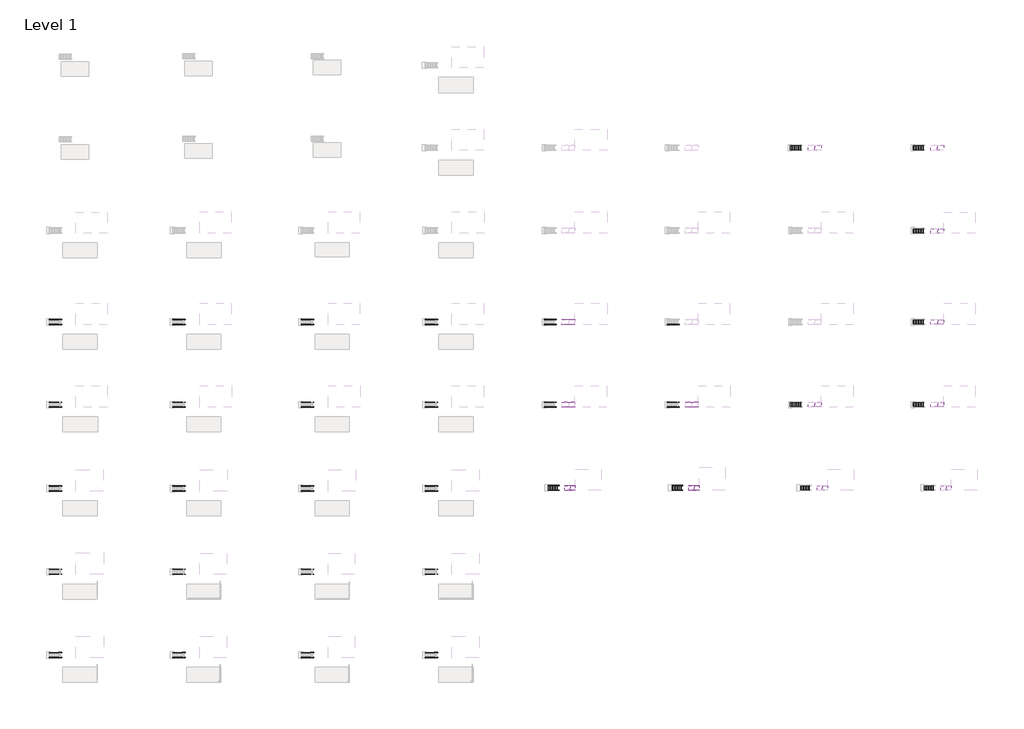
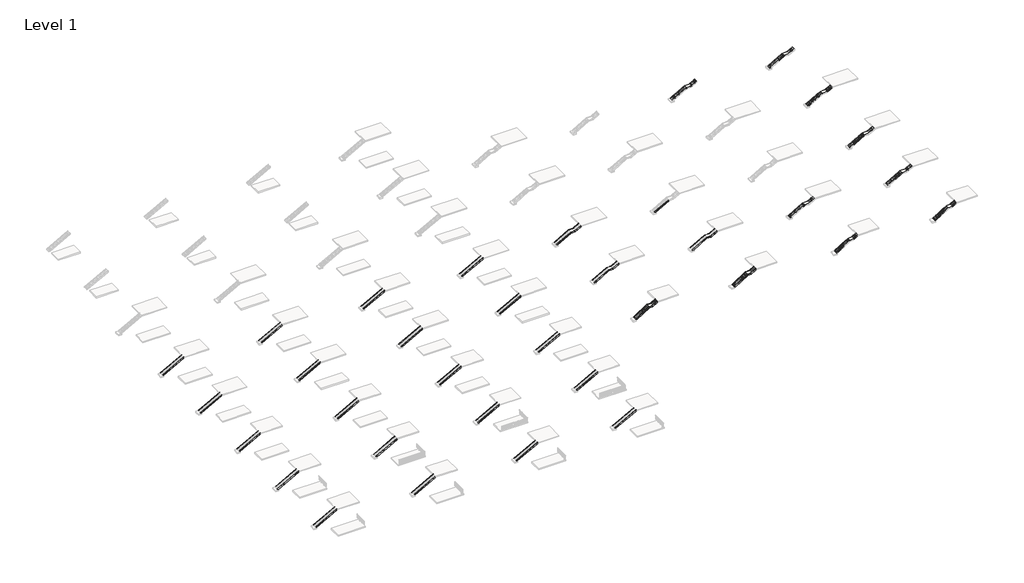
# One storey, part 19 of 21: 71 members, 20 stair flights, 10 slabs.
"""IFC4 building model written with IfcOpenShell, lengths in millimetres."""

from ifc_helpers import new_model, si_unit, frame, origin, place, context, project, spatial, polyline, outline, extrude, transform, mapped, element, save
from components import non_monolithic_landing_ede59ca6, non_monolithic_landing_506cc850, non_monolithic_landing_5e89c606, non_monolithic_landing_ddbb4e18, non_monolithic_landing_e4bc7665, non_monolithic_landing_72e1c1c6, non_monolithic_landing_d6115c21, non_monolithic_landing_ffcbee33, non_monolithic_landing_4331faeb, non_monolithic_landing_26f0ee61, stair_flight_ac206a03, stair_flight_104fc26a, stair_flight_10a90011, stair_flight_adbb388f, stair_flight_39228297, stair_flight_6df5a2fd, stair_flight_5e2af056, stair_flight_82e8a3de, stair_flight_0315c361, stair_flight_44e7a53b, stair_flight_f2fce335, stair_flight_d8697efd, stair_flight_7d4b4248, stair_flight_ee7fe192, stair_flight_6ce74025, stair_flight_1b28ec5c, stair_flight_25ebc553, stair_flight_7da9959f, stair_flight_bc33b561, stair_flight_5b1c3e2d

model = new_model("IFC4")

# Units and contexts
model_context = context("Model", 3, world=origin())
ifc_project = project(units=[si_unit("LENGTHUNIT", "METRE", prefix="MILLI")], contexts=[model_context])

# Site, building, storey
site = spatial("IfcSite", under=ifc_project)
building = spatial("IfcBuilding", under=site)
storey = spatial("IfcBuildingStorey", under=building, Name="Level 1", Elevation=0.0)

# Members
placement = place(None, origin())
element("IfcMember", 1, ObjectType="Stringer - 2\" Width", at=placement, inside=storey, context=model_context, shape_type="SweptSolid", body=[
    extrude(outline(polyline([(177.1989729, -14498.1164794), (0.0, -14498.1164794), (0.0, -14212.9808448), (2753.9260175, -9164.1164794), (3086.6535184, -9164.1164794), (177.1989729, -14498.1164794)])), frame((0.0, -67879.4034511, 0.0), z_axis=(0.0, 1.0, 0.0), x_axis=(0.0, 0.0, 1.0)), (0.0, 0.0, 1.0), 50.8),
])
element("IfcMember", 2, ObjectType="Stringer - 2\" Width", at=placement, inside=storey, context=model_context, shape_type="SweptSolid", body=[
    extrude(outline(polyline([(177.1989729, -14498.1164794), (0.0, -14498.1164794), (0.0, -14212.9808448), (2753.9260175, -9164.1164794), (3086.6535184, -9164.1164794), (177.1989729, -14498.1164794)])), frame((0.0, -68844.6034511, 0.0), z_axis=(0.0, 1.0, 0.0), x_axis=(0.0, 0.0, 1.0)), (0.0, 0.0, 1.0), 50.8),
])
element("IfcMember", 3, ObjectType="Stringer - 2\" Width", at=placement, inside=storey, context=model_context, shape_type="SweptSolid", body=[
    extrude(outline(polyline([(177.1989729, -14498.1164794), (0.0, -14498.1164794), (0.0, -14212.9808448), (2753.9260175, -9164.1164794), (3086.6535184, -9164.1164794), (177.1989729, -14498.1164794)])), frame((0.0, -51279.2426165, 0.0), z_axis=(0.0, 1.0, 0.0), x_axis=(0.0, 0.0, 1.0)), (0.0, 0.0, 1.0), 50.8),
])
element("IfcMember", 4, ObjectType="Stringer - 2\" Width", at=placement, inside=storey, context=model_context, shape_type="SweptSolid", body=[
    extrude(outline(polyline([(177.1989729, -14498.1164794), (0.0, -14498.1164794), (0.0, -14212.9808448), (2753.9260175, -9164.1164794), (3086.6535184, -9164.1164794), (177.1989729, -14498.1164794)])), frame((0.0, -52244.4426165, 0.0), z_axis=(0.0, 1.0, 0.0), x_axis=(0.0, 0.0, 1.0)), (0.0, 0.0, 1.0), 50.8),
])
element("IfcMember", 5, ObjectType="Stringer - 2\" Width", at=placement, inside=storey, context=model_context, shape_type="SweptSolid", body=[
    extrude(outline(polyline([(177.1989729, -14498.1164794), (0.0, -14498.1164794), (0.0, -14212.9808448), (2753.9260175, -9164.1164794), (3086.6535184, -9164.1164794), (177.1989729, -14498.1164794)])), frame((0.0, -34679.081782, 0.0), z_axis=(0.0, 1.0, 0.0), x_axis=(0.0, 0.0, 1.0)), (0.0, 0.0, 1.0), 50.8),
])
element("IfcMember", 6, ObjectType="Stringer - 2\" Width", at=placement, inside=storey, context=model_context, shape_type="SweptSolid", body=[
    extrude(outline(polyline([(177.1989729, -14498.1164794), (0.0, -14498.1164794), (0.0, -14212.9808448), (2753.9260175, -9164.1164794), (3086.6535184, -9164.1164794), (177.1989729, -14498.1164794)])), frame((0.0, -35644.281782, 0.0), z_axis=(0.0, 1.0, 0.0), x_axis=(0.0, 0.0, 1.0)), (0.0, 0.0, 1.0), 50.8),
])
element("IfcMember", 7, ObjectType="Stringer - 2\" Width", at=placement, inside=storey, context=model_context, shape_type="SweptSolid", body=[
    extrude(outline(polyline([(177.1989729, -14498.1164794), (0.0, -14498.1164794), (0.0, -14212.9808448), (2753.9260175, -9164.1164794), (3086.6535184, -9164.1164794), (177.1989729, -14498.1164794)])), frame((0.0, -17954.2990002, 0.0), z_axis=(0.0, 1.0, 0.0), x_axis=(0.0, 0.0, 1.0)), (0.0, 0.0, 1.0), 50.8),
])
element("IfcMember", 8, ObjectType="Stringer - 2\" Width", at=placement, inside=storey, context=model_context, shape_type="SweptSolid", body=[
    extrude(outline(polyline([(177.1989729, -14498.1164794), (0.0, -14498.1164794), (0.0, -14212.9808448), (2753.9260175, -9164.1164794), (3086.6535184, -9164.1164794), (177.1989729, -14498.1164794)])), frame((0.0, -18919.4990002, 0.0), z_axis=(0.0, 1.0, 0.0), x_axis=(0.0, 0.0, 1.0)), (0.0, 0.0, 1.0), 50.8),
])
element("IfcMember", 9, ObjectType="Stringer - 2\" Width", at=placement, inside=storey, context=model_context, shape_type="SweptSolid", body=[
    extrude(outline(polyline([(177.1989729, -14498.1164794), (0.0, -14498.1164794), (0.0, -14212.9808448), (2753.9260175, -9164.1164794), (3086.6535184, -9164.1164794), (177.1989729, -14498.1164794)])), frame((0.0, -1486.3855758, 0.0), z_axis=(0.0, 1.0, 0.0), x_axis=(0.0, 0.0, 1.0)), (0.0, 0.0, 1.0), 50.8),
])
element("IfcMember", 10, ObjectType="Stringer - 2\" Width", at=placement, inside=storey, context=model_context, shape_type="SweptSolid", body=[
    extrude(outline(polyline([(177.1989729, -14498.1164794), (0.0, -14498.1164794), (0.0, -14212.9808448), (2753.9260175, -9164.1164794), (3086.6535184, -9164.1164794), (177.1989729, -14498.1164794)])), frame((0.0, -2451.5855758, 0.0), z_axis=(0.0, 1.0, 0.0), x_axis=(0.0, 0.0, 1.0)), (0.0, 0.0, 1.0), 50.8),
])
element("IfcMember", 11, ObjectType="Stringer - 2\" Width", at=placement, inside=storey, context=model_context, shape_type="SweptSolid", body=[
    extrude(outline(polyline([(177.1989729, 10178.8572927), (0.0, 10178.8572927), (0.0, 10463.9929272), (2753.9260175, 15512.8572927), (3086.6535184, 15512.8572927), (177.1989729, 10178.8572927)])), frame((0.0, -67879.4034511, 0.0), z_axis=(0.0, 1.0, 0.0), x_axis=(0.0, 0.0, 1.0)), (0.0, 0.0, 1.0), 50.8),
])
element("IfcMember", 12, ObjectType="Stringer - 2\" Width", at=placement, inside=storey, context=model_context, shape_type="SweptSolid", body=[
    extrude(outline(polyline([(177.1989729, 10178.8572927), (0.0, 10178.8572927), (0.0, 10463.9929272), (2753.9260175, 15512.8572927), (3086.6535184, 15512.8572927), (177.1989729, 10178.8572927)])), frame((0.0, -68844.6034511, 0.0), z_axis=(0.0, 1.0, 0.0), x_axis=(0.0, 0.0, 1.0)), (0.0, 0.0, 1.0), 50.8),
])
element("IfcMember", 13, ObjectType="Stringer - 2\" Width", at=placement, inside=storey, context=model_context, shape_type="SweptSolid", body=[
    extrude(outline(polyline([(177.1989729, 10178.8572927), (0.0, 10178.8572927), (0.0, 10463.9929272), (2753.9260175, 15512.8572927), (3086.6535184, 15512.8572927), (177.1989729, 10178.8572927)])), frame((0.0, -51279.2426165, 0.0), z_axis=(0.0, 1.0, 0.0), x_axis=(0.0, 0.0, 1.0)), (0.0, 0.0, 1.0), 50.8),
])
element("IfcMember", 14, ObjectType="Stringer - 2\" Width", at=placement, inside=storey, context=model_context, shape_type="SweptSolid", body=[
    extrude(outline(polyline([(177.1989729, 10178.8572927), (0.0, 10178.8572927), (0.0, 10463.9929272), (2753.9260175, 15512.8572927), (3086.6535184, 15512.8572927), (177.1989729, 10178.8572927)])), frame((0.0, -52244.4426165, 0.0), z_axis=(0.0, 1.0, 0.0), x_axis=(0.0, 0.0, 1.0)), (0.0, 0.0, 1.0), 50.8),
])
element("IfcMember", 15, ObjectType="Stringer - 2\" Width", at=placement, inside=storey, context=model_context, shape_type="SweptSolid", body=[
    extrude(outline(polyline([(177.1989729, 10178.8572927), (0.0, 10178.8572927), (0.0, 10463.9929272), (2753.9260175, 15512.8572927), (3086.6535184, 15512.8572927), (177.1989729, 10178.8572927)])), frame((0.0, -34679.081782, 0.0), z_axis=(0.0, 1.0, 0.0), x_axis=(0.0, 0.0, 1.0)), (0.0, 0.0, 1.0), 50.8),
])
element("IfcMember", 16, ObjectType="Stringer - 2\" Width", at=placement, inside=storey, context=model_context, shape_type="SweptSolid", body=[
    extrude(outline(polyline([(177.1989729, 10178.8572927), (0.0, 10178.8572927), (0.0, 10463.9929272), (2753.9260175, 15512.8572927), (3086.6535184, 15512.8572927), (177.1989729, 10178.8572927)])), frame((0.0, -35644.281782, 0.0), z_axis=(0.0, 1.0, 0.0), x_axis=(0.0, 0.0, 1.0)), (0.0, 0.0, 1.0), 50.8),
])
element("IfcMember", 17, ObjectType="Stringer - 2\" Width", at=placement, inside=storey, context=model_context, shape_type="SweptSolid", body=[
    extrude(outline(polyline([(177.1989729, 10178.8572927), (0.0, 10178.8572927), (0.0, 10463.9929272), (2753.9260175, 15512.8572927), (3086.6535184, 15512.8572927), (177.1989729, 10178.8572927)])), frame((0.0, -17954.2990002, 0.0), z_axis=(0.0, 1.0, 0.0), x_axis=(0.0, 0.0, 1.0)), (0.0, 0.0, 1.0), 50.8),
])
element("IfcMember", 18, ObjectType="Stringer - 2\" Width", at=placement, inside=storey, context=model_context, shape_type="SweptSolid", body=[
    extrude(outline(polyline([(177.1989729, 10178.8572927), (0.0, 10178.8572927), (0.0, 10463.9929272), (2753.9260175, 15512.8572927), (3086.6535184, 15512.8572927), (177.1989729, 10178.8572927)])), frame((0.0, -18919.4990002, 0.0), z_axis=(0.0, 1.0, 0.0), x_axis=(0.0, 0.0, 1.0)), (0.0, 0.0, 1.0), 50.8),
])
element("IfcMember", 19, ObjectType="Stringer - 2\" Width", at=placement, inside=storey, context=model_context, shape_type="SweptSolid", body=[
    extrude(outline(polyline([(177.1989729, 10178.8572927), (0.0, 10178.8572927), (0.0, 10463.9929272), (2753.9260175, 15512.8572927), (3086.6535184, 15512.8572927), (177.1989729, 10178.8572927)])), frame((0.0, -1486.3855758, 0.0), z_axis=(0.0, 1.0, 0.0), x_axis=(0.0, 0.0, 1.0)), (0.0, 0.0, 1.0), 50.8),
])
element("IfcMember", 20, ObjectType="Stringer - 2\" Width", at=placement, inside=storey, context=model_context, shape_type="SweptSolid", body=[
    extrude(outline(polyline([(177.1989729, 10178.8572927), (0.0, 10178.8572927), (0.0, 10463.9929272), (2753.9260175, 15512.8572927), (3086.6535184, 15512.8572927), (177.1989729, 10178.8572927)])), frame((0.0, -2451.5855758, 0.0), z_axis=(0.0, 1.0, 0.0), x_axis=(0.0, 0.0, 1.0)), (0.0, 0.0, 1.0), 50.8),
])
element("IfcMember", 21, ObjectType="Stringer - 2\" Width", at=placement, inside=storey, context=model_context, shape_type="SweptSolid", body=[
    extrude(outline(polyline([(177.1989729, 35782.0572927), (0.0, 35782.0572927), (0.0, 36067.1929272), (2753.9260175, 41116.0572927), (3086.6535184, 41116.0572927), (177.1989729, 35782.0572927)])), frame((0.0, -67879.4034511, 0.0), z_axis=(0.0, 1.0, 0.0), x_axis=(0.0, 0.0, 1.0)), (0.0, 0.0, 1.0), 50.8),
])
element("IfcMember", 22, ObjectType="Stringer - 2\" Width", at=placement, inside=storey, context=model_context, shape_type="SweptSolid", body=[
    extrude(outline(polyline([(177.1989729, 35782.0572927), (0.0, 35782.0572927), (0.0, 36067.1929272), (2753.9260175, 41116.0572927), (3086.6535184, 41116.0572927), (177.1989729, 35782.0572927)])), frame((0.0, -68844.6034511, 0.0), z_axis=(0.0, 1.0, 0.0), x_axis=(0.0, 0.0, 1.0)), (0.0, 0.0, 1.0), 50.8),
])
element("IfcMember", 23, ObjectType="Stringer - 2\" Width", at=placement, inside=storey, context=model_context, shape_type="SweptSolid", body=[
    extrude(outline(polyline([(177.1989729, 35782.0572927), (0.0, 35782.0572927), (0.0, 36067.1929272), (2753.9260175, 41116.0572927), (3086.6535184, 41116.0572927), (177.1989729, 35782.0572927)])), frame((0.0, -51279.2426165, 0.0), z_axis=(0.0, 1.0, 0.0), x_axis=(0.0, 0.0, 1.0)), (0.0, 0.0, 1.0), 50.8),
])
element("IfcMember", 24, ObjectType="Stringer - 2\" Width", at=placement, inside=storey, context=model_context, shape_type="SweptSolid", body=[
    extrude(outline(polyline([(177.1989729, 35782.0572927), (0.0, 35782.0572927), (0.0, 36067.1929272), (2753.9260175, 41116.0572927), (3086.6535184, 41116.0572927), (177.1989729, 35782.0572927)])), frame((0.0, -52244.4426165, 0.0), z_axis=(0.0, 1.0, 0.0), x_axis=(0.0, 0.0, 1.0)), (0.0, 0.0, 1.0), 50.8),
])
element("IfcMember", 25, ObjectType="Stringer - 2\" Width", at=placement, inside=storey, context=model_context, shape_type="SweptSolid", body=[
    extrude(outline(polyline([(177.1989729, 35782.0572927), (0.0, 35782.0572927), (0.0, 36067.1929272), (2753.9260175, 41116.0572927), (3086.6535184, 41116.0572927), (177.1989729, 35782.0572927)])), frame((0.0, -34679.081782, 0.0), z_axis=(0.0, 1.0, 0.0), x_axis=(0.0, 0.0, 1.0)), (0.0, 0.0, 1.0), 50.8),
])
element("IfcMember", 26, ObjectType="Stringer - 2\" Width", at=placement, inside=storey, context=model_context, shape_type="SweptSolid", body=[
    extrude(outline(polyline([(177.1989729, 35782.0572927), (0.0, 35782.0572927), (0.0, 36067.1929272), (2753.9260175, 41116.0572927), (3086.6535184, 41116.0572927), (177.1989729, 35782.0572927)])), frame((0.0, -35644.281782, 0.0), z_axis=(0.0, 1.0, 0.0), x_axis=(0.0, 0.0, 1.0)), (0.0, 0.0, 1.0), 50.8),
])
element("IfcMember", 27, ObjectType="Stringer - 2\" Width", at=placement, inside=storey, context=model_context, shape_type="SweptSolid", body=[
    extrude(outline(polyline([(177.1989729, 35782.0572927), (0.0, 35782.0572927), (0.0, 36067.1929272), (2753.9260175, 41116.0572927), (3086.6535184, 41116.0572927), (177.1989729, 35782.0572927)])), frame((0.0, -17954.2990002, 0.0), z_axis=(0.0, 1.0, 0.0), x_axis=(0.0, 0.0, 1.0)), (0.0, 0.0, 1.0), 50.8),
])
element("IfcMember", 28, ObjectType="Stringer - 2\" Width", at=placement, inside=storey, context=model_context, shape_type="SweptSolid", body=[
    extrude(outline(polyline([(177.1989729, 35782.0572927), (0.0, 35782.0572927), (0.0, 36067.1929272), (2753.9260175, 41116.0572927), (3086.6535184, 41116.0572927), (177.1989729, 35782.0572927)])), frame((0.0, -18919.4990002, 0.0), z_axis=(0.0, 1.0, 0.0), x_axis=(0.0, 0.0, 1.0)), (0.0, 0.0, 1.0), 50.8),
])
element("IfcMember", 29, ObjectType="Stringer - 2\" Width", at=placement, inside=storey, context=model_context, shape_type="SweptSolid", body=[
    extrude(outline(polyline([(177.1989729, 35782.0572927), (0.0, 35782.0572927), (0.0, 36067.1929272), (2753.9260175, 41116.0572927), (3086.6535184, 41116.0572927), (177.1989729, 35782.0572927)])), frame((0.0, -1486.3855758, 0.0), z_axis=(0.0, 1.0, 0.0), x_axis=(0.0, 0.0, 1.0)), (0.0, 0.0, 1.0), 50.8),
])
element("IfcMember", 30, ObjectType="Stringer - 2\" Width", at=placement, inside=storey, context=model_context, shape_type="SweptSolid", body=[
    extrude(outline(polyline([(177.1989729, 35782.0572927), (0.0, 35782.0572927), (0.0, 36067.1929272), (2753.9260175, 41116.0572927), (3086.6535184, 41116.0572927), (177.1989729, 35782.0572927)])), frame((0.0, -2451.5855758, 0.0), z_axis=(0.0, 1.0, 0.0), x_axis=(0.0, 0.0, 1.0)), (0.0, 0.0, 1.0), 50.8),
])
element("IfcMember", 31, ObjectType="Stringer - 2\" Width", at=placement, inside=storey, context=model_context, shape_type="SweptSolid", body=[
    extrude(outline(polyline([(177.1989729, 60459.0310647), (0.0, 60459.0310647), (0.0, 60744.1666993), (2753.9260175, 65793.0310647), (3086.6535184, 65793.0310647), (177.1989729, 60459.0310647)])), frame((0.0, -67879.4034511, 0.0), z_axis=(0.0, 1.0, 0.0), x_axis=(0.0, 0.0, 1.0)), (0.0, 0.0, 1.0), 50.8),
])
element("IfcMember", 32, ObjectType="Stringer - 2\" Width", at=placement, inside=storey, context=model_context, shape_type="SweptSolid", body=[
    extrude(outline(polyline([(177.1989729, 60459.0310647), (0.0, 60459.0310647), (0.0, 60744.1666993), (2753.9260175, 65793.0310647), (3086.6535184, 65793.0310647), (177.1989729, 60459.0310647)])), frame((0.0, -68844.6034511, 0.0), z_axis=(0.0, 1.0, 0.0), x_axis=(0.0, 0.0, 1.0)), (0.0, 0.0, 1.0), 50.8),
])
element("IfcMember", 33, ObjectType="Stringer - 2\" Width", at=placement, inside=storey, context=model_context, shape_type="SweptSolid", body=[
    extrude(outline(polyline([(177.1989729, 60459.0310647), (0.0, 60459.0310647), (0.0, 60744.1666993), (2753.9260175, 65793.0310647), (3086.6535184, 65793.0310647), (177.1989729, 60459.0310647)])), frame((0.0, -51279.2426165, 0.0), z_axis=(0.0, 1.0, 0.0), x_axis=(0.0, 0.0, 1.0)), (0.0, 0.0, 1.0), 50.8),
])
element("IfcMember", 34, ObjectType="Stringer - 2\" Width", at=placement, inside=storey, context=model_context, shape_type="SweptSolid", body=[
    extrude(outline(polyline([(177.1989729, 60459.0310647), (0.0, 60459.0310647), (0.0, 60744.1666993), (2753.9260175, 65793.0310647), (3086.6535184, 65793.0310647), (177.1989729, 60459.0310647)])), frame((0.0, -52244.4426165, 0.0), z_axis=(0.0, 1.0, 0.0), x_axis=(0.0, 0.0, 1.0)), (0.0, 0.0, 1.0), 50.8),
])
element("IfcMember", 35, ObjectType="Stringer - 2\" Width", at=placement, inside=storey, context=model_context, shape_type="SweptSolid", body=[
    extrude(outline(polyline([(177.1989729, 60459.0310647), (0.0, 60459.0310647), (0.0, 60744.1666993), (2753.9260175, 65793.0310647), (3086.6535184, 65793.0310647), (177.1989729, 60459.0310647)])), frame((0.0, -34679.081782, 0.0), z_axis=(0.0, 1.0, 0.0), x_axis=(0.0, 0.0, 1.0)), (0.0, 0.0, 1.0), 50.8),
])
element("IfcMember", 36, ObjectType="Stringer - 2\" Width", at=placement, inside=storey, context=model_context, shape_type="SweptSolid", body=[
    extrude(outline(polyline([(177.1989729, 60459.0310647), (0.0, 60459.0310647), (0.0, 60744.1666993), (2753.9260175, 65793.0310647), (3086.6535184, 65793.0310647), (177.1989729, 60459.0310647)])), frame((0.0, -35644.281782, 0.0), z_axis=(0.0, 1.0, 0.0), x_axis=(0.0, 0.0, 1.0)), (0.0, 0.0, 1.0), 50.8),
])
element("IfcMember", 37, ObjectType="Stringer - 2\" Width", at=placement, inside=storey, context=model_context, shape_type="SweptSolid", body=[
    extrude(outline(polyline([(177.1989729, 60459.0310647), (0.0, 60459.0310647), (0.0, 60744.1666993), (2753.9260175, 65793.0310647), (3086.6535184, 65793.0310647), (177.1989729, 60459.0310647)])), frame((0.0, -17954.2990002, 0.0), z_axis=(0.0, 1.0, 0.0), x_axis=(0.0, 0.0, 1.0)), (0.0, 0.0, 1.0), 50.8),
])
element("IfcMember", 38, ObjectType="Stringer - 2\" Width", at=placement, inside=storey, context=model_context, shape_type="SweptSolid", body=[
    extrude(outline(polyline([(177.1989729, 60459.0310647), (0.0, 60459.0310647), (0.0, 60744.1666993), (2753.9260175, 65793.0310647), (3086.6535184, 65793.0310647), (177.1989729, 60459.0310647)])), frame((0.0, -18919.4990002, 0.0), z_axis=(0.0, 1.0, 0.0), x_axis=(0.0, 0.0, 1.0)), (0.0, 0.0, 1.0), 50.8),
])
element("IfcMember", 39, ObjectType="Stringer - 2\" Width", at=placement, inside=storey, context=model_context, shape_type="SweptSolid", body=[
    extrude(outline(polyline([(177.1989729, 60459.0310647), (0.0, 60459.0310647), (0.0, 60744.1666993), (2753.9260175, 65793.0310647), (3086.6535184, 65793.0310647), (177.1989729, 60459.0310647)])), frame((0.0, -1486.3855758, 0.0), z_axis=(0.0, 1.0, 0.0), x_axis=(0.0, 0.0, 1.0)), (0.0, 0.0, 1.0), 50.8),
])
element("IfcMember", 40, ObjectType="Stringer - 2\" Width", at=placement, inside=storey, context=model_context, shape_type="SweptSolid", body=[
    extrude(outline(polyline([(177.1989729, 60459.0310647), (0.0, 60459.0310647), (0.0, 60744.1666993), (2753.9260175, 65793.0310647), (3086.6535184, 65793.0310647), (177.1989729, 60459.0310647)])), frame((0.0, -2451.5855758, 0.0), z_axis=(0.0, 1.0, 0.0), x_axis=(0.0, 0.0, 1.0)), (0.0, 0.0, 1.0), 50.8),
])
element("IfcMember", 41, ObjectType="Stringer - 2\" Width", at=placement, inside=storey, context=model_context, shape_type="SweptSolid", body=[
    extrude(outline(polyline([(179.6072535, 84196.2048368), (0.0, 84196.2048368), (0.0, 84470.6385153), (1916.7928571, 87825.0260153), (2208.8928571, 87747.4546432), (179.6072535, 84196.2048368)])), frame((0.0, -1486.3855758, 0.0), z_axis=(0.0, 1.0, 0.0), x_axis=(0.0, 0.0, 1.0)), (0.0, 0.0, 1.0), 50.8),
])
element("IfcMember", 42, ObjectType="Stringer - 2\" Width", at=placement, inside=storey, context=model_context, shape_type="SweptSolid", body=[
    extrude(outline(polyline([(179.6072535, 84196.2048368), (0.0, 84196.2048368), (0.0, 84470.6385153), (1916.7928571, 87825.0260153), (2208.8928571, 87747.4546432), (179.6072535, 84196.2048368)])), frame((0.0, -2451.5855758, 0.0), z_axis=(0.0, 1.0, 0.0), x_axis=(0.0, 0.0, 1.0)), (0.0, 0.0, 1.0), 50.8),
])
element("IfcMember", 43, ObjectType="Stringer - 2\" Width", at=placement, inside=storey, context=model_context, shape_type="SweptSolid", body=[
    extrude(outline(polyline([(2208.8928571, 88814.2546432), (1916.7928571, 88891.8260153), (2746.037898, 90343.0048368), (3048.0, 90343.0048368), (3048.0, 90282.6921432), (2208.8928571, 88814.2546432)])), frame((0.0, -1486.3855758, 0.0), z_axis=(0.0, 1.0, 0.0), x_axis=(0.0, 0.0, 1.0)), (0.0, 0.0, 1.0), 50.8),
])
element("IfcMember", 44, ObjectType="Stringer - 2\" Width", at=placement, inside=storey, context=model_context, shape_type="SweptSolid", body=[
    extrude(outline(polyline([(2208.8928571, 88814.2546432), (1916.7928571, 88891.8260153), (2746.037898, 90343.0048368), (3048.0, 90343.0048368), (3048.0, 90282.6921432), (2208.8928571, 88814.2546432)])), frame((0.0, -2451.5855758, 0.0), z_axis=(0.0, 1.0, 0.0), x_axis=(0.0, 0.0, 1.0)), (0.0, 0.0, 1.0), 50.8),
])
element("IfcMember", 45, ObjectType="Stringer - 2\" Width", at=placement, inside=storey, context=model_context, shape_type="SweptSolid", body=[
    extrude(outline(polyline([(1916.7928571, 88891.8260153), (2208.8928571, 88814.2546432), (2208.8928571, 87747.4546432), (1916.7928571, 87825.0260153), (1916.7928571, 88891.8260153)])), frame((0.0, -1486.3855758, 0.0), z_axis=(0.0, 1.0, 0.0), x_axis=(0.0, 0.0, 1.0)), (0.0, 0.0, 1.0), 50.8),
])
element("IfcMember", 46, ObjectType="Stringer - 2\" Width", at=placement, inside=storey, context=model_context, shape_type="SweptSolid", body=[
    extrude(outline(polyline([(2208.8928571, 87747.4546432), (1916.7928571, 87825.0260153), (1916.7928571, 88891.8260153), (2208.8928571, 88814.2546432), (2208.8928571, 87747.4546432)])), frame((0.0, -2451.5855758, 0.0), z_axis=(0.0, 1.0, 0.0), x_axis=(0.0, 0.0, 1.0)), (0.0, 0.0, 1.0), 50.8),
])
element("IfcMember", 47, ObjectType="Stringer - 2\" Width", at=placement, inside=storey, context=model_context, shape_type="SweptSolid", body=[
    extrude(outline(polyline([(179.6072535, 84196.2048368), (0.0, 84196.2048368), (0.0, 84470.6385153), (1916.7928571, 87825.0260153), (2208.8928571, 87747.4546432), (179.6072535, 84196.2048368)])), frame((0.0, -17954.2990002, 0.0), z_axis=(0.0, 1.0, 0.0), x_axis=(0.0, 0.0, 1.0)), (0.0, 0.0, 1.0), 50.8),
])
element("IfcMember", 48, ObjectType="Stringer - 2\" Width", at=placement, inside=storey, context=model_context, shape_type="SweptSolid", body=[
    extrude(outline(polyline([(179.6072535, 84196.2048368), (0.0, 84196.2048368), (0.0, 84470.6385153), (1916.7928571, 87825.0260153), (2208.8928571, 87747.4546432), (179.6072535, 84196.2048368)])), frame((0.0, -18919.4990002, 0.0), z_axis=(0.0, 1.0, 0.0), x_axis=(0.0, 0.0, 1.0)), (0.0, 0.0, 1.0), 50.8),
])
element("IfcMember", 49, ObjectType="Stringer - 2\" Width", at=placement, inside=storey, context=model_context, shape_type="SweptSolid", body=[
    extrude(outline(polyline([(2208.8928571, 88814.2546432), (1916.7928571, 88891.8260153), (2746.037898, 90343.0048368), (3048.0, 90343.0048368), (3048.0, 90282.6921432), (2208.8928571, 88814.2546432)])), frame((0.0, -17954.2990002, 0.0), z_axis=(0.0, 1.0, 0.0), x_axis=(0.0, 0.0, 1.0)), (0.0, 0.0, 1.0), 50.8),
])
element("IfcMember", 50, ObjectType="Stringer - 2\" Width", at=placement, inside=storey, context=model_context, shape_type="SweptSolid", body=[
    extrude(outline(polyline([(2208.8928571, 88814.2546432), (1916.7928571, 88891.8260153), (2746.037898, 90343.0048368), (3048.0, 90343.0048368), (3048.0, 90282.6921432), (2208.8928571, 88814.2546432)])), frame((0.0, -18919.4990002, 0.0), z_axis=(0.0, 1.0, 0.0), x_axis=(0.0, 0.0, 1.0)), (0.0, 0.0, 1.0), 50.8),
])
element("IfcMember", 51, ObjectType="Stringer - 2\" Width", at=placement, inside=storey, context=model_context, shape_type="SweptSolid", body=[
    extrude(outline(polyline([(1916.7928571, 88891.8260153), (2208.8928571, 88814.2546432), (2208.8928571, 87747.4546432), (1916.7928571, 87825.0260153), (1916.7928571, 88891.8260153)])), frame((0.0, -17954.2990002, 0.0), z_axis=(0.0, 1.0, 0.0), x_axis=(0.0, 0.0, 1.0)), (0.0, 0.0, 1.0), 50.8),
])
element("IfcMember", 52, ObjectType="Stringer - 2\" Width", at=placement, inside=storey, context=model_context, shape_type="SweptSolid", body=[
    extrude(outline(polyline([(2208.8928571, 87747.4546432), (1916.7928571, 87825.0260153), (1916.7928571, 88891.8260153), (2208.8928571, 88814.2546432), (2208.8928571, 87747.4546432)])), frame((0.0, -18919.4990002, 0.0), z_axis=(0.0, 1.0, 0.0), x_axis=(0.0, 0.0, 1.0)), (0.0, 0.0, 1.0), 50.8),
])
element("IfcMember", 53, ObjectType="Stringer - 2\" Width", at=placement, inside=storey, context=model_context, shape_type="SweptSolid", body=[
    extrude(outline(polyline([(179.6072535, 108746.1786089), (0.0, 108746.1786089), (0.0, 109020.6122873), (1916.7928571, 112374.9997873), (2208.8928571, 112297.4284152), (179.6072535, 108746.1786089)])), frame((0.0, -2451.5855758, 0.0), z_axis=(0.0, 1.0, 0.0), x_axis=(0.0, 0.0, 1.0)), (0.0, 0.0, 1.0), 50.8),
])
element("IfcMember", 54, ObjectType="Stringer - 2\" Width", at=placement, inside=storey, context=model_context, shape_type="SweptSolid", body=[
    extrude(outline(polyline([(179.6072535, 108746.1786089), (0.0, 108746.1786089), (0.0, 109020.6122873), (1916.7928571, 112374.9997873), (2208.8928571, 112297.4284152), (179.6072535, 108746.1786089)])), frame((0.0, -17954.2990002, 0.0), z_axis=(0.0, 1.0, 0.0), x_axis=(0.0, 0.0, 1.0)), (0.0, 0.0, 1.0), 50.8),
])
element("IfcMember", 55, ObjectType="Stringer - 2\" Width", at=placement, inside=storey, context=model_context, shape_type="SweptSolid", body=[
    extrude(outline(polyline([(179.6072535, 108746.1786089), (0.0, 108746.1786089), (0.0, 109020.6122873), (1916.7928571, 112374.9997873), (2208.8928571, 112297.4284152), (179.6072535, 108746.1786089)])), frame((0.0, -18919.4990002, 0.0), z_axis=(0.0, 1.0, 0.0), x_axis=(0.0, 0.0, 1.0)), (0.0, 0.0, 1.0), 50.8),
])
element("IfcMember", 56, ObjectType="Stringer - 2\" Width", at=placement, inside=storey, context=model_context, shape_type="SweptSolid", body=[
    extrude(outline(polyline([(2208.8928571, 113364.2284152), (1916.7928571, 113441.7997873), (2746.037898, 114892.9786089), (3048.0, 114892.9786089), (3048.0, 114832.6659152), (2208.8928571, 113364.2284152)])), frame((0.0, -17954.2990002, 0.0), z_axis=(0.0, 1.0, 0.0), x_axis=(0.0, 0.0, 1.0)), (0.0, 0.0, 1.0), 50.8),
])
element("IfcMember", 57, ObjectType="Stringer - 2\" Width", at=placement, inside=storey, context=model_context, shape_type="SweptSolid", body=[
    extrude(outline(polyline([(2208.8928571, 113364.2284152), (1916.7928571, 113441.7997873), (2746.037898, 114892.9786089), (3048.0, 114892.9786089), (3048.0, 114832.6659152), (2208.8928571, 113364.2284152)])), frame((0.0, -18919.4990002, 0.0), z_axis=(0.0, 1.0, 0.0), x_axis=(0.0, 0.0, 1.0)), (0.0, 0.0, 1.0), 50.8),
])
element("IfcMember", 58, ObjectType="Stringer - 2\" Width", at=placement, inside=storey, context=model_context, shape_type="SweptSolid", body=[
    extrude(outline(polyline([(1916.7928571, 113441.7997873), (2208.8928571, 113364.2284152), (2208.8928571, 112297.4284152), (1916.7928571, 112374.9997873), (1916.7928571, 113441.7997873)])), frame((0.0, -17954.2990002, 0.0), z_axis=(0.0, 1.0, 0.0), x_axis=(0.0, 0.0, 1.0)), (0.0, 0.0, 1.0), 50.8),
])
element("IfcMember", 59, ObjectType="Stringer - 2\" Width", at=placement, inside=storey, context=model_context, shape_type="SweptSolid", body=[
    extrude(outline(polyline([(2208.8928571, 112297.4284152), (1916.7928571, 112374.9997873), (1916.7928571, 113441.7997873), (2208.8928571, 113364.2284152), (2208.8928571, 112297.4284152)])), frame((0.0, -18919.4990002, 0.0), z_axis=(0.0, 1.0, 0.0), x_axis=(0.0, 0.0, 1.0)), (0.0, 0.0, 1.0), 50.8),
])
element("IfcMember", 60, ObjectType="Stringer - 2\" Width", at=placement, inside=storey, context=model_context, shape_type="SweptSolid", body=[
    extrude(outline(polyline([(185.523793, 85028.9207174), (0.0, 85028.9207174), (0.0, 85282.1856365), (1985.5447368, 88425.9648032), (2277.6447368, 88341.4455451), (185.523793, 85028.9207174)])), frame((0.0, -34537.0428514, 0.0), z_axis=(0.0, 1.0, 0.0), x_axis=(0.0, 0.0, 1.0)), (0.0, 0.0, 1.0), 50.8),
])
element("IfcMember", 61, ObjectType="Stringer - 2\" Width", at=placement, inside=storey, context=model_context, shape_type="SweptSolid", body=[
    extrude(outline(polyline([(185.523793, 85028.9207174), (0.0, 85028.9207174), (0.0, 85282.1856365), (1985.5447368, 88425.9648032), (2277.6447368, 88341.4455451), (185.523793, 85028.9207174)])), frame((0.0, -35502.2428514, 0.0), z_axis=(0.0, 1.0, 0.0), x_axis=(0.0, 0.0, 1.0)), (0.0, 0.0, 1.0), 50.8),
])
element("IfcMember", 62, ObjectType="Stringer - 2\" Width", at=placement, inside=storey, context=model_context, shape_type="SweptSolid", body=[
    extrude(outline(polyline([(2277.6447368, 89154.2455451), (1985.5447368, 89238.7648032), (2727.6221564, 90413.7207174), (3048.0, 90413.7207174), (3048.0, 90373.9747118), (2277.6447368, 89154.2455451)])), frame((0.0, -34537.0428514, 0.0), z_axis=(0.0, 1.0, 0.0), x_axis=(0.0, 0.0, 1.0)), (0.0, 0.0, 1.0), 50.8),
])
element("IfcMember", 63, ObjectType="Stringer - 2\" Width", at=placement, inside=storey, context=model_context, shape_type="SweptSolid", body=[
    extrude(outline(polyline([(2277.6447368, 89154.2455451), (1985.5447368, 89238.7648032), (2727.6221564, 90413.7207174), (3048.0, 90413.7207174), (3048.0, 90373.9747118), (2277.6447368, 89154.2455451)])), frame((0.0, -35502.2428514, 0.0), z_axis=(0.0, 1.0, 0.0), x_axis=(0.0, 0.0, 1.0)), (0.0, 0.0, 1.0), 50.8),
])
element("IfcMember", 64, ObjectType="Stringer - 2\" Width", at=placement, inside=storey, context=model_context, shape_type="SweptSolid", body=[
    extrude(outline(polyline([(1985.5447368, 89238.7648032), (2277.6447368, 89154.2455451), (2277.6447368, 88341.4455451), (1985.5447368, 88425.9648032), (1985.5447368, 89238.7648032)])), frame((0.0, -34537.0428514, 0.0), z_axis=(0.0, 1.0, 0.0), x_axis=(0.0, 0.0, 1.0)), (0.0, 0.0, 1.0), 50.8),
])
element("IfcMember", 65, ObjectType="Stringer - 2\" Width", at=placement, inside=storey, context=model_context, shape_type="SweptSolid", body=[
    extrude(outline(polyline([(2277.6447368, 88341.4455451), (1985.5447368, 88425.9648032), (1985.5447368, 89238.7648032), (2277.6447368, 89154.2455451), (2277.6447368, 88341.4455451)])), frame((0.0, -35502.2428514, 0.0), z_axis=(0.0, 1.0, 0.0), x_axis=(0.0, 0.0, 1.0)), (0.0, 0.0, 1.0), 50.8),
])
element("IfcMember", 66, ObjectType="Stringer - 2\" Width", at=placement, inside=storey, context=model_context, shape_type="SweptSolid", body=[
    extrude(outline(polyline([(185.523793, 109705.8944894), (0.0, 109705.8944894), (0.0, 109959.1594085), (1985.5447368, 113102.9385752), (2277.6447368, 113018.4193172), (185.523793, 109705.8944894)])), frame((0.0, -34537.0428514, 0.0), z_axis=(0.0, 1.0, 0.0), x_axis=(0.0, 0.0, 1.0)), (0.0, 0.0, 1.0), 50.8),
])
element("IfcMember", 67, ObjectType="Stringer - 2\" Width", at=placement, inside=storey, context=model_context, shape_type="SweptSolid", body=[
    extrude(outline(polyline([(185.523793, 109705.8944894), (0.0, 109705.8944894), (0.0, 109959.1594085), (1985.5447368, 113102.9385752), (2277.6447368, 113018.4193172), (185.523793, 109705.8944894)])), frame((0.0, -35502.2428514, 0.0), z_axis=(0.0, 1.0, 0.0), x_axis=(0.0, 0.0, 1.0)), (0.0, 0.0, 1.0), 50.8),
])
element("IfcMember", 68, ObjectType="Stringer - 2\" Width", at=placement, inside=storey, context=model_context, shape_type="SweptSolid", body=[
    extrude(outline(polyline([(2277.6447368, 113831.2193172), (1985.5447368, 113915.7385752), (2727.6221564, 115090.6944894), (3048.0, 115090.6944894), (3048.0, 115050.9484839), (2277.6447368, 113831.2193172)])), frame((0.0, -34537.0428514, 0.0), z_axis=(0.0, 1.0, 0.0), x_axis=(0.0, 0.0, 1.0)), (0.0, 0.0, 1.0), 50.8),
])
element("IfcMember", 69, ObjectType="Stringer - 2\" Width", at=placement, inside=storey, context=model_context, shape_type="SweptSolid", body=[
    extrude(outline(polyline([(2277.6447368, 113831.2193172), (1985.5447368, 113915.7385752), (2727.6221564, 115090.6944894), (3048.0, 115090.6944894), (3048.0, 115050.9484839), (2277.6447368, 113831.2193172)])), frame((0.0, -35502.2428514, 0.0), z_axis=(0.0, 1.0, 0.0), x_axis=(0.0, 0.0, 1.0)), (0.0, 0.0, 1.0), 50.8),
])
element("IfcMember", 70, ObjectType="Stringer - 2\" Width", at=placement, inside=storey, context=model_context, shape_type="SweptSolid", body=[
    extrude(outline(polyline([(1985.5447368, 113915.7385752), (2277.6447368, 113831.2193172), (2277.6447368, 113018.4193172), (1985.5447368, 113102.9385752), (1985.5447368, 113915.7385752)])), frame((0.0, -34537.0428514, 0.0), z_axis=(0.0, 1.0, 0.0), x_axis=(0.0, 0.0, 1.0)), (0.0, 0.0, 1.0), 50.8),
])
element("IfcMember", 71, ObjectType="Stringer - 2\" Width", at=placement, inside=storey, context=model_context, shape_type="SweptSolid", body=[
    extrude(outline(polyline([(2277.6447368, 113018.4193172), (1985.5447368, 113102.9385752), (1985.5447368, 113915.7385752), (2277.6447368, 113831.2193172), (2277.6447368, 113018.4193172)])), frame((0.0, -35502.2428514, 0.0), z_axis=(0.0, 1.0, 0.0), x_axis=(0.0, 0.0, 1.0)), (0.0, 0.0, 1.0), 50.8),
])

# Slabs
non_monolithic_landing_shape = non_monolithic_landing_ede59ca6(model_context)
element("IfcSlab", 72, ObjectType="Non-Monolithic Landing", at=placement, inside=storey, context=model_context, shape_type="MappedRepresentation", body=[
    mapped(non_monolithic_landing_shape, transform((0.0, 0.0, 0.0), x_axis=(1.0, 0.0, 0.0), y_axis=(0.0, 1.0, 0.0), z_axis=(0.0, 0.0, 1.0))),
])
non_monolithic_landing_2_shape = non_monolithic_landing_506cc850(model_context)
element("IfcSlab", 73, ObjectType="Non-Monolithic Landing", at=placement, inside=storey, context=model_context, shape_type="MappedRepresentation", body=[
    mapped(non_monolithic_landing_2_shape, transform((0.0, 0.0, 0.0), x_axis=(1.0, 0.0, 0.0), y_axis=(0.0, 1.0, 0.0), z_axis=(0.0, 0.0, 1.0))),
])
non_monolithic_landing_3_shape = non_monolithic_landing_5e89c606(model_context)
element("IfcSlab", 74, ObjectType="Non-Monolithic Landing", at=placement, inside=storey, context=model_context, shape_type="MappedRepresentation", body=[
    mapped(non_monolithic_landing_3_shape, transform((0.0, 0.0, 0.0), x_axis=(1.0, 0.0, 0.0), y_axis=(0.0, 1.0, 0.0), z_axis=(0.0, 0.0, 1.0))),
])
non_monolithic_landing_4_shape = non_monolithic_landing_ddbb4e18(model_context)
element("IfcSlab", 75, ObjectType="Non-Monolithic Landing", at=placement, inside=storey, context=model_context, shape_type="MappedRepresentation", body=[
    mapped(non_monolithic_landing_4_shape, transform((0.0, 0.0, 0.0), x_axis=(1.0, 0.0, 0.0), y_axis=(0.0, 1.0, 0.0), z_axis=(0.0, 0.0, 1.0))),
])
non_monolithic_landing_5_shape = non_monolithic_landing_e4bc7665(model_context)
element("IfcSlab", 76, ObjectType="Non-Monolithic Landing", at=placement, inside=storey, context=model_context, shape_type="MappedRepresentation", body=[
    mapped(non_monolithic_landing_5_shape, transform((0.0, 0.0, 0.0), x_axis=(1.0, 0.0, 0.0), y_axis=(0.0, 1.0, 0.0), z_axis=(0.0, 0.0, 1.0))),
])
non_monolithic_landing_6_shape = non_monolithic_landing_72e1c1c6(model_context)
element("IfcSlab", 77, ObjectType="Non-Monolithic Landing", at=placement, inside=storey, context=model_context, shape_type="MappedRepresentation", body=[
    mapped(non_monolithic_landing_6_shape, transform((0.0, 0.0, 0.0), x_axis=(1.0, 0.0, 0.0), y_axis=(0.0, 1.0, 0.0), z_axis=(0.0, 0.0, 1.0))),
])
non_monolithic_landing_7_shape = non_monolithic_landing_d6115c21(model_context)
element("IfcSlab", 78, ObjectType="Non-Monolithic Landing", at=placement, inside=storey, context=model_context, shape_type="MappedRepresentation", body=[
    mapped(non_monolithic_landing_7_shape, transform((0.0, 0.0, 0.0), x_axis=(1.0, 0.0, 0.0), y_axis=(0.0, 1.0, 0.0), z_axis=(0.0, 0.0, 1.0))),
])
non_monolithic_landing_8_shape = non_monolithic_landing_ffcbee33(model_context)
element("IfcSlab", 79, ObjectType="Non-Monolithic Landing", at=placement, inside=storey, context=model_context, shape_type="MappedRepresentation", body=[
    mapped(non_monolithic_landing_8_shape, transform((0.0, 0.0, 0.0), x_axis=(1.0, 0.0, 0.0), y_axis=(0.0, 1.0, 0.0), z_axis=(0.0, 0.0, 1.0))),
])
non_monolithic_landing_9_shape = non_monolithic_landing_4331faeb(model_context)
element("IfcSlab", 80, ObjectType="Non-Monolithic Landing", at=placement, inside=storey, context=model_context, shape_type="MappedRepresentation", body=[
    mapped(non_monolithic_landing_9_shape, transform((0.0, 0.0, 0.0), x_axis=(1.0, 0.0, 0.0), y_axis=(0.0, 1.0, 0.0), z_axis=(0.0, 0.0, 1.0))),
])
non_monolithic_landing_10_shape = non_monolithic_landing_26f0ee61(model_context)
element("IfcSlab", 81, ObjectType="Non-Monolithic Landing", at=placement, inside=storey, context=model_context, shape_type="MappedRepresentation", body=[
    mapped(non_monolithic_landing_10_shape, transform((0.0, 0.0, 0.0), x_axis=(1.0, 0.0, 0.0), y_axis=(0.0, 1.0, 0.0), z_axis=(0.0, 0.0, 1.0))),
])

# Stair flights
stair_flight_shape = stair_flight_ac206a03(model_context)
element("IfcStairFlight", 82, ObjectType="2\" Tread 1/4\" Riser", at=placement, inside=storey, context=model_context, shape_type="MappedRepresentation", body=[
    mapped(stair_flight_shape, transform((0.0, 0.0, 0.0), x_axis=(1.0, 0.0, 0.0), y_axis=(0.0, 1.0, 0.0), z_axis=(0.0, 0.0, 1.0))),
])
stair_flight_2_shape = stair_flight_104fc26a(model_context)
element("IfcStairFlight", 83, ObjectType="2\" Tread 1/4\" Riser", at=placement, inside=storey, context=model_context, shape_type="MappedRepresentation", body=[
    mapped(stair_flight_2_shape, transform((0.0, 0.0, 0.0), x_axis=(1.0, 0.0, 0.0), y_axis=(0.0, 1.0, 0.0), z_axis=(0.0, 0.0, 1.0))),
])
stair_flight_3_shape = stair_flight_10a90011(model_context)
element("IfcStairFlight", 84, ObjectType="2\" Tread 1/4\" Riser", at=placement, inside=storey, context=model_context, shape_type="MappedRepresentation", body=[
    mapped(stair_flight_3_shape, transform((0.0, 0.0, 0.0), x_axis=(1.0, 0.0, 0.0), y_axis=(0.0, 1.0, 0.0), z_axis=(0.0, 0.0, 1.0))),
])
stair_flight_4_shape = stair_flight_adbb388f(model_context)
element("IfcStairFlight", 85, ObjectType="2\" Tread 1/4\" Riser", at=placement, inside=storey, context=model_context, shape_type="MappedRepresentation", body=[
    mapped(stair_flight_4_shape, transform((0.0, 0.0, 0.0), x_axis=(1.0, 0.0, 0.0), y_axis=(0.0, 1.0, 0.0), z_axis=(0.0, 0.0, 1.0))),
])
stair_flight_5_shape = stair_flight_39228297(model_context)
element("IfcStairFlight", 86, ObjectType="2\" Tread 1/4\" Riser", at=placement, inside=storey, context=model_context, shape_type="MappedRepresentation", body=[
    mapped(stair_flight_5_shape, transform((0.0, 0.0, 0.0), x_axis=(1.0, 0.0, 0.0), y_axis=(0.0, 1.0, 0.0), z_axis=(0.0, 0.0, 1.0))),
])
stair_flight_6_shape = stair_flight_6df5a2fd(model_context)
element("IfcStairFlight", 87, ObjectType="2\" Tread 1/4\" Riser", at=placement, inside=storey, context=model_context, shape_type="MappedRepresentation", body=[
    mapped(stair_flight_6_shape, transform((0.0, 0.0, 0.0), x_axis=(1.0, 0.0, 0.0), y_axis=(0.0, 1.0, 0.0), z_axis=(0.0, 0.0, 1.0))),
])
stair_flight_7_shape = stair_flight_5e2af056(model_context)
element("IfcStairFlight", 88, ObjectType="2\" Tread 1/4\" Riser", at=placement, inside=storey, context=model_context, shape_type="MappedRepresentation", body=[
    mapped(stair_flight_7_shape, transform((0.0, 0.0, 0.0), x_axis=(1.0, 0.0, 0.0), y_axis=(0.0, 1.0, 0.0), z_axis=(0.0, 0.0, 1.0))),
])
stair_flight_8_shape = stair_flight_82e8a3de(model_context)
element("IfcStairFlight", 89, ObjectType="2\" Tread 1/4\" Riser", at=placement, inside=storey, context=model_context, shape_type="MappedRepresentation", body=[
    mapped(stair_flight_8_shape, transform((0.0, 0.0, 0.0), x_axis=(1.0, 0.0, 0.0), y_axis=(0.0, 1.0, 0.0), z_axis=(0.0, 0.0, 1.0))),
])
stair_flight_9_shape = stair_flight_0315c361(model_context)
element("IfcStairFlight", 90, ObjectType="2\" Tread 1/4\" Riser", at=placement, inside=storey, context=model_context, shape_type="MappedRepresentation", body=[
    mapped(stair_flight_9_shape, transform((0.0, 0.0, 0.0), x_axis=(1.0, 0.0, 0.0), y_axis=(0.0, 1.0, 0.0), z_axis=(0.0, 0.0, 1.0))),
])
stair_flight_10_shape = stair_flight_44e7a53b(model_context)
element("IfcStairFlight", 91, ObjectType="2\" Tread 1/4\" Riser", at=placement, inside=storey, context=model_context, shape_type="MappedRepresentation", body=[
    mapped(stair_flight_10_shape, transform((0.0, 0.0, 0.0), x_axis=(1.0, 0.0, 0.0), y_axis=(0.0, 1.0, 0.0), z_axis=(0.0, 0.0, 1.0))),
])
stair_flight_11_shape = stair_flight_f2fce335(model_context)
element("IfcStairFlight", 92, ObjectType="2\" Tread 1/4\" Riser", at=placement, inside=storey, context=model_context, shape_type="MappedRepresentation", body=[
    mapped(stair_flight_11_shape, transform((0.0, 0.0, 0.0), x_axis=(1.0, 0.0, 0.0), y_axis=(0.0, 1.0, 0.0), z_axis=(0.0, 0.0, 1.0))),
])
stair_flight_12_shape = stair_flight_d8697efd(model_context)
element("IfcStairFlight", 93, ObjectType="2\" Tread 1/4\" Riser", at=placement, inside=storey, context=model_context, shape_type="MappedRepresentation", body=[
    mapped(stair_flight_12_shape, transform((0.0, 0.0, 0.0), x_axis=(1.0, 0.0, 0.0), y_axis=(0.0, 1.0, 0.0), z_axis=(0.0, 0.0, 1.0))),
])
stair_flight_13_shape = stair_flight_7d4b4248(model_context)
element("IfcStairFlight", 94, ObjectType="2\" Tread 1/4\" Riser", at=placement, inside=storey, context=model_context, shape_type="MappedRepresentation", body=[
    mapped(stair_flight_13_shape, transform((0.0, 0.0, 0.0), x_axis=(1.0, 0.0, 0.0), y_axis=(0.0, 1.0, 0.0), z_axis=(0.0, 0.0, 1.0))),
])
stair_flight_14_shape = stair_flight_ee7fe192(model_context)
element("IfcStairFlight", 95, ObjectType="2\" Tread 1/4\" Riser", at=placement, inside=storey, context=model_context, shape_type="MappedRepresentation", body=[
    mapped(stair_flight_14_shape, transform((0.0, 0.0, 0.0), x_axis=(1.0, 0.0, 0.0), y_axis=(0.0, 1.0, 0.0), z_axis=(0.0, 0.0, 1.0))),
])
stair_flight_15_shape = stair_flight_6ce74025(model_context)
element("IfcStairFlight", 96, ObjectType="2\" Tread 1/4\" Riser", at=placement, inside=storey, context=model_context, shape_type="MappedRepresentation", body=[
    mapped(stair_flight_15_shape, transform((0.0, 0.0, 0.0), x_axis=(1.0, 0.0, 0.0), y_axis=(0.0, 1.0, 0.0), z_axis=(0.0, 0.0, 1.0))),
])
stair_flight_16_shape = stair_flight_1b28ec5c(model_context)
element("IfcStairFlight", 97, ObjectType="2\" Tread 1/4\" Riser", at=placement, inside=storey, context=model_context, shape_type="MappedRepresentation", body=[
    mapped(stair_flight_16_shape, transform((0.0, 0.0, 0.0), x_axis=(1.0, 0.0, 0.0), y_axis=(0.0, 1.0, 0.0), z_axis=(0.0, 0.0, 1.0))),
])
stair_flight_17_shape = stair_flight_25ebc553(model_context)
element("IfcStairFlight", 98, ObjectType="2\" Tread 1/4\" Riser", at=placement, inside=storey, context=model_context, shape_type="MappedRepresentation", body=[
    mapped(stair_flight_17_shape, transform((0.0, 0.0, 0.0), x_axis=(1.0, 0.0, 0.0), y_axis=(0.0, 1.0, 0.0), z_axis=(0.0, 0.0, 1.0))),
])
stair_flight_18_shape = stair_flight_7da9959f(model_context)
element("IfcStairFlight", 99, ObjectType="2\" Tread 1/4\" Riser", at=placement, inside=storey, context=model_context, shape_type="MappedRepresentation", body=[
    mapped(stair_flight_18_shape, transform((0.0, 0.0, 0.0), x_axis=(1.0, 0.0, 0.0), y_axis=(0.0, 1.0, 0.0), z_axis=(0.0, 0.0, 1.0))),
])
stair_flight_19_shape = stair_flight_bc33b561(model_context)
element("IfcStairFlight", 100, ObjectType="2\" Tread 1/4\" Riser", at=placement, inside=storey, context=model_context, shape_type="MappedRepresentation", body=[
    mapped(stair_flight_19_shape, transform((0.0, 0.0, 0.0), x_axis=(1.0, 0.0, 0.0), y_axis=(0.0, 1.0, 0.0), z_axis=(0.0, 0.0, 1.0))),
])
stair_flight_20_shape = stair_flight_5b1c3e2d(model_context)
element("IfcStairFlight", 101, ObjectType="2\" Tread 1/4\" Riser", at=placement, inside=storey, context=model_context, shape_type="MappedRepresentation", body=[
    mapped(stair_flight_20_shape, transform((0.0, 0.0, 0.0), x_axis=(1.0, 0.0, 0.0), y_axis=(0.0, 1.0, 0.0), z_axis=(0.0, 0.0, 1.0))),
])

save(model, "model.ifc")
